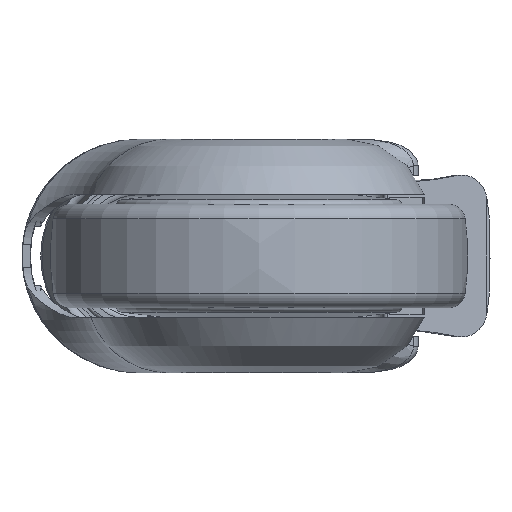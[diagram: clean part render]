
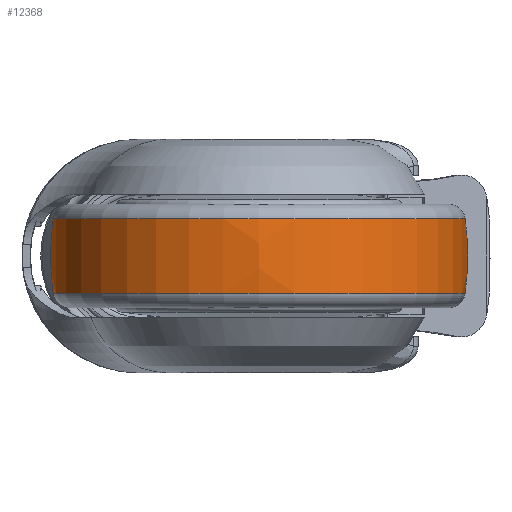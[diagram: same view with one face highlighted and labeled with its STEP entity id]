
A CAD part, front view. The second image highlights one B-rep face of the part: STEP entity #12368.
In plain terms, the highlighted free-form (B-spline) face has degree [3, 3] with [7, 4] control points.
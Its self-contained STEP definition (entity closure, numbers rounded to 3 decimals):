
#11819=CARTESIAN_POINT('',(11.2,0.,0.));
#11820=DIRECTION('',(-1.,0.,0.));
#11821=DIRECTION('',(0.,1.,0.));
#11822=AXIS2_PLACEMENT_3D('',#11819,#11820,#11821);
#11824=CARTESIAN_POINT('',(0.,-17.482,0.));
#11825=DIRECTION('',(0.,0.,1.));
#11826=DIRECTION('',(0.14,0.99,0.));
#11827=AXIS2_PLACEMENT_3D('',#11824,#11825,#11826);
#11834=CARTESIAN_POINT('',(0.,17.482,0.));
#11835=DIRECTION('',(0.,0.,-1.));
#11836=DIRECTION('',(0.14,-0.99,0.));
#11837=AXIS2_PLACEMENT_3D('',#11834,#11835,#11836);
#12046=CARTESIAN_POINT('',(-11.2,0.,0.));
#12047=DIRECTION('',(-1.,0.,0.));
#12048=DIRECTION('',(0.,1.,0.));
#12049=AXIS2_PLACEMENT_3D('',#12046,#12047,#12048);
#12233=CARTESIAN_POINT('',(11.2,61.73,0.));
#12234=CARTESIAN_POINT('',(-11.2,61.73,0.));
#12235=VERTEX_POINT('',#12233);
#12236=VERTEX_POINT('',#12234);
#12281=CARTESIAN_POINT('',(11.2,-61.73,
0.));
#12282=CARTESIAN_POINT('',(-11.2,-61.73,
0.));
#12283=VERTEX_POINT('',#12281);
#12284=VERTEX_POINT('',#12282);
#12329=CARTESIAN_POINT('',(11.645,61.544,3.872));
#12330=CARTESIAN_POINT('',(3.909,62.68,3.943));
#12331=CARTESIAN_POINT('',(-3.909,62.68,
3.943));
#12332=CARTESIAN_POINT('',(-11.645,61.544,
3.872));
#12333=CARTESIAN_POINT('',(11.645,63.927,
-34.002));
#12334=CARTESIAN_POINT('',(3.909,65.107,
-34.63));
#12335=CARTESIAN_POINT('',(-3.909,65.107,
-34.63));
#12336=CARTESIAN_POINT('',(-11.645,63.927,
-34.002));
#12337=CARTESIAN_POINT('',(11.645,37.949,
-61.666));
#12338=CARTESIAN_POINT('',(3.909,38.649,
-62.804));
#12339=CARTESIAN_POINT('',(-3.909,38.649,
-62.804));
#12340=CARTESIAN_POINT('',(-11.645,37.949,
-61.666));
#12341=CARTESIAN_POINT('',(11.645,0.,-61.666));
#12342=CARTESIAN_POINT('',(3.909,0.,-62.804));
#12343=CARTESIAN_POINT('',(-3.909,0.,-62.804));
#12344=CARTESIAN_POINT('',(-11.645,0.,
-61.666));
#12345=CARTESIAN_POINT('',(11.645,-37.949,
-61.666));
#12346=CARTESIAN_POINT('',(3.909,-38.649,
-62.804));
#12347=CARTESIAN_POINT('',(-3.909,-38.649,
-62.804));
#12348=CARTESIAN_POINT('',(-11.645,-37.949,
-61.666));
#12349=CARTESIAN_POINT('',(11.645,-63.927,
-34.002));
#12350=CARTESIAN_POINT('',(3.909,-65.107,
-34.63));
#12351=CARTESIAN_POINT('',(-3.909,-65.107,
-34.63));
#12352=CARTESIAN_POINT('',(-11.645,-63.927,
-34.002));
#12353=CARTESIAN_POINT('',(11.645,-61.544,
3.872));
#12354=CARTESIAN_POINT('',(3.909,-62.68,
3.943));
#12355=CARTESIAN_POINT('',(-3.909,-62.68,
3.943));
#12356=CARTESIAN_POINT('',(-11.645,-61.544,
3.872));
#12357=(BOUNDED_SURFACE()B_SPLINE_SURFACE(3,3,((#12329,#12330,#12331,#12332),(
#12333,#12334,#12335,#12336),(#12337,#12338,#12339,#12340),(#12341,#12342,
#12343,#12344),(#12345,#12346,#12347,#12348),(#12349,#12350,#12351,#12352),(
#12353,#12354,#12355,#12356)),.UNSPECIFIED.,.F.,.F.,.F.)B_SPLINE_SURFACE_WITH_KNOTS((4,3,4),(4,4),(0.,1.,2.),(0.,1.),.UNSPECIFIED.)GEOMETRIC_REPRESENTATION_ITEM()RATIONAL_B_SPLINE_SURFACE(((1.194,1.185,
1.185,1.194),(0.943,0.936,
0.936,0.943),(0.943,0.936,
0.936,0.943),(1.194,1.185,
1.185,1.194),(0.943,0.936,
0.936,0.943),(0.943,0.936,
0.936,0.943),(1.194,1.185,
1.185,1.194)))REPRESENTATION_ITEM('')SURFACE());
#12359=ORIENTED_EDGE('',*,*,#12358,.T.);
#12361=ORIENTED_EDGE('',*,*,#12360,.T.);
#12363=ORIENTED_EDGE('',*,*,#12362,.F.);
#12365=ORIENTED_EDGE('',*,*,#12364,.F.);
#12366=EDGE_LOOP('',(#12359,#12361,#12363,#12365));
#12367=FACE_OUTER_BOUND('',#12366,.F.);
#11823=CIRCLE('',#11822,61.73);
#11828=CIRCLE('',#11827,80.);
#11838=CIRCLE('',#11837,80.);
#12050=CIRCLE('',#12049,61.73);
#12358=EDGE_CURVE('',#12235,#12236,#11828,.T.);
#12360=EDGE_CURVE('',#12236,#12284,#12050,.T.);
#12362=EDGE_CURVE('',#12283,#12284,#11838,.T.);
#12364=EDGE_CURVE('',#12235,#12283,#11823,.T.);
#12368=ADVANCED_FACE('',(#12367),#12357,.T.);
